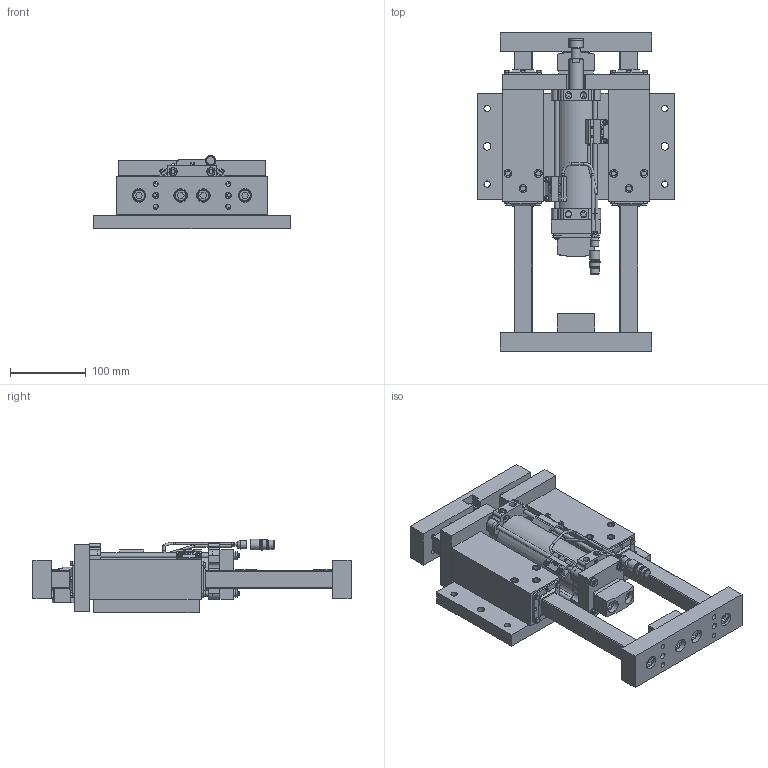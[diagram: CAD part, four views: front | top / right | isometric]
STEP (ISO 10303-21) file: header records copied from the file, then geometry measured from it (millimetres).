
FILE_DESCRIPTION(/* description */ (''),/* implementation_level */ '2;1');
FILE_NAME(/* name */ 'C:\Vault Workspace\CAD\Welker\Shot Pin\DBL24\STANDARD\DB2075B01XL3XXX0000-RET.stp',/* time_stamp */ '2018-03-26T06:54:07-04:00',/* author */ ('KLabrecque'),/* organization */ (''),/* preprocessor_version */ 'ST-DEVELOPER v17',/* originating_system */ 'Autodesk Inventor 2018',/* authorisation */ '');
FILE_SCHEMA (('AUTOMOTIVE_DESIGN { 1 0 10303 214 3 1 1 }'));
Products named in the file (1): DB2L01_Shrinkwrap_1
Bounding box: 260 x 421 x 97.03 mm (x, y, z)
Volume: 2897151.3 mm3; surface area: 680387.6 mm2
Topology: 125 solids, 125 shells, 2389 faces, 5686 edges, 3737 vertices
Faces by surface type: plane 1340, cylinder 581, cone 434, torus 18, bspline 16
Full cylindrical faces by diameter (mm): 0.5 x1, 1.9 x2, 2.459 x4, 2.5 x1, 2.6 x2, 3 x8, 3.175 x14, 3.2 x6, 3.5 x4, 3.734 x16, 4 x2, 4.166 x16, 4.763 x32, 4.917 x12, 5 x2, 5.359 x8, 5.5 x4, 6 x12, 6.35 x2, 6.5 x24, 6.647 x14, 7 x8, 7.95 x4, 8 x24, 8.334 x12, 8.376 x14, 8.5 x12, 8.7 x12, 9.6 x1, 9.728 x1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
Entity records: 72282 total; most frequent: CARTESIAN_POINT 13487, DIRECTION 11912, ORIENTED_EDGE 11260, EDGE_CURVE 5630, AXIS2_PLACEMENT_3D 4444, VERTEX_POINT 3737, LINE 3024, VECTOR 3024
